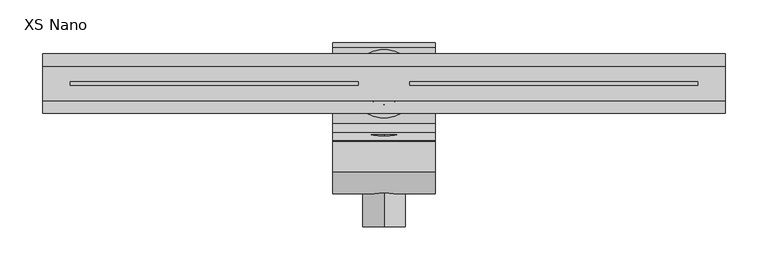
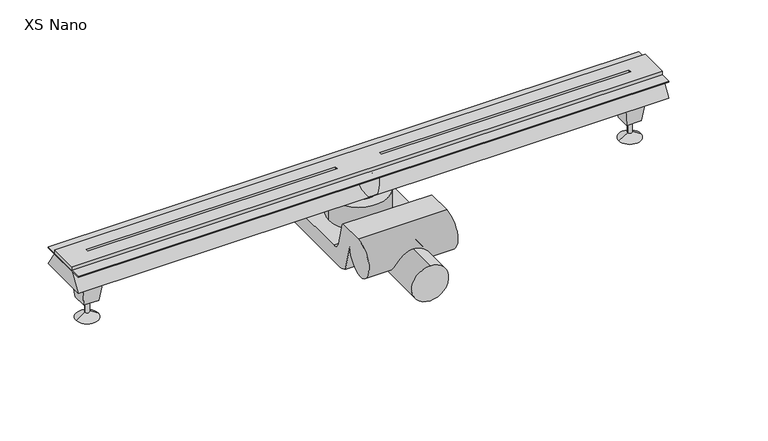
"""IFC4 building model written with IfcOpenShell, lengths in millimetres: sanitary terminal geometry, NLRS_PF_52_UN_XS Nano_Easydrain : XS Nano."""

from ifc_helpers import new_model, si_unit, point, frame, frame_2d, origin, origin_2d, place, context, project, spatial, polyline, circle_curve, trimmed, segment, composite_curve, outline, extrude, faceted_brep, source, transform, mapped, element, save
from ifc_brep_helpers import plane_surface, cylinder_surface, revolved_surface, advanced_brep


def xs_nano_9b7dcf74(model_context):
    return source(origin(), model_context, "Body", "SolidModel", [
        extrude(outline(composite_curve([segment(trimmed(circle_curve(frame_2d((-74.0, 0.0)), 25.0), [point((-99.0, 0.0))], [point((-49.0, 0.0))], False, "CARTESIAN"), True, "CONTINUOUS"), segment(trimmed(circle_curve(frame_2d((-74.0, 0.0)), 25.0), [point((-49.0, 0.0))], [point((-99.0, 0.0))], False, "CARTESIAN"), True, "CONTINUOUS")], self_intersect=False)), frame((0.0, -168.0, 0.0), z_axis=(0.0, 1.0, 0.0), x_axis=(0.0, 0.0, 1.0)), (0.0, 0.0, 1.0), 108.0),
        extrude(outline(composite_curve([segment(trimmed(circle_curve(frame_2d((43.3675767, -90.3675767)), 4.6324233), [point((48.0, -90.3675767))], [point((43.3675767, -95.0))], False, "CARTESIAN"), True, "CONTINUOUS"), segment(polyline([(43.3675767, -95.0), (-60.0, -95.0)]), True, "CONTINUOUS"), segment(trimmed(circle_curve(frame_2d((-57.5994856, -66.0429208)), 29.056409), [point((-60.0, -95.0))], [point((-73.552105, -90.3284894))], False, "CARTESIAN"), True, "CONTINUOUS"), segment(polyline([(-73.552105, -90.3284894), (-84.1621521, -51.5447741)]), True, "CONTINUOUS"), segment(trimmed(circle_curve(frame_2d((-112.4464233, -51.5447741)), 28.2842712), [point((-84.1621521, -51.5447741))], [point((-112.4464233, -79.8290454))], False, "CARTESIAN"), True, "CONTINUOUS"), segment(trimmed(circle_curve(frame_2d((-102.9818456, -55.2956944)), 26.2956944), [point((-112.4464233, -79.8290454))], [point((-102.9818456, -29.0))], False, "CARTESIAN"), True, "CONTINUOUS"), segment(polyline([(-102.9818456, -29.0), (-67.7157548, -29.0)]), True, "CONTINUOUS"), segment(trimmed(circle_curve(frame_2d((-72.2174189, -34.731688)), 7.2881566), [point((-67.7157548, -29.0))], [point((-66.5178956, -30.189369))], False, "CARTESIAN"), True, "CONTINUOUS"), segment(polyline([(-66.5178956, -30.189369), (-57.3528508, -63.0)]), True, "CONTINUOUS"), segment(trimmed(circle_curve(frame_2d((-46.2657703, -60.6709247)), 11.3290753), [point((-57.3528508, -63.0))], [point((-46.2657703, -72.0))], True, "CARTESIAN"), True, "CONTINUOUS"), segment(polyline([(-46.2657703, -72.0), (42.6324233, -72.0)]), True, "CONTINUOUS"), segment(trimmed(circle_curve(frame_2d((42.6324233, -77.3675767)), 5.3675767), [point((42.6324233, -72.0))], [point((48.0, -77.3675767))], False, "CARTESIAN"), True, "CONTINUOUS"), segment(polyline([(48.0, -77.3675767), (48.0, -90.3675767)]), True, "CONTINUOUS")], self_intersect=False)), frame((-60.0, 0.0, 0.0), z_axis=(1.0, 0.0, 0.0), x_axis=(0.0, 1.0, 0.0)), (0.0, 0.0, 1.0), 120.0),
        extrude(outline(composite_curve([segment(trimmed(circle_curve(origin_2d(), 40.0), [point((-40.0, 0.0))], [point((40.0, 0.0))], False, "CARTESIAN"), True, "CONTINUOUS"), segment(trimmed(circle_curve(origin_2d(), 40.0), [point((40.0, 0.0))], [point((-40.0, 0.0))], False, "CARTESIAN"), True, "CONTINUOUS")], self_intersect=False)), frame((0.0, 0.0, -72.0), z_axis=(0.0, 0.0, 1.0), x_axis=(1.0, 0.0, 0.0)), (0.0, 0.0, 1.0), 33.0),
        extrude(outline(composite_curve([segment(trimmed(circle_curve(origin_2d(), 25.0), [point((-25.0, 0.0))], [point((25.0, 0.0))], False, "CARTESIAN"), True, "CONTINUOUS"), segment(trimmed(circle_curve(origin_2d(), 25.0), [point((25.0, 0.0))], [point((-25.0, 0.0))], False, "CARTESIAN"), True, "CONTINUOUS")], self_intersect=False)), frame((0.0, 0.0, -39.0), z_axis=(0.0, 0.0, 1.0), x_axis=(1.0, 0.0, 0.0)), (0.0, 0.0, 1.0), 10.0),
        advanced_brep(
        [(370.5, 0.0, -69.0), (364.5, 0.0, -69.0), (367.5, 0.0, -69.0), (370.5, 0.0, -87.5), (364.5, 0.0, -87.5), (382.5, 0.0, -95.0), (352.5, 0.0, -95.0), (367.5, 0.0, -95.0)],
        [
            (0, 1, circle_curve(frame((367.5, 0.0, -69.0), z_axis=(0.0, 0.0, 1.0), x_axis=(-1.0, 0.0, 0.0)), 3.0)),
            (1, 2),
            (2, 0),
            (1, 0, circle_curve(frame((367.5, 0.0, -69.0), z_axis=(0.0, 0.0, 1.0), x_axis=(-1.0, 0.0, 0.0)), 3.0)),
            (3, 4, circle_curve(frame((367.5, 0.0, -87.5), z_axis=(0.0, 0.0, 1.0), x_axis=(-1.0, 0.0, 0.0)), 3.0)),
            (4, 1),
            (0, 3),
            (4, 3, circle_curve(frame((367.5, 0.0, -87.5), z_axis=(0.0, 0.0, 1.0), x_axis=(-1.0, 0.0, 0.0)), 3.0)),
            (5, 6, circle_curve(frame((367.5, 0.0, -95.0), z_axis=(0.0, 0.0, 1.0), x_axis=(-1.0, 0.0, 0.0)), 15.0)),
            (6, 4),
            (3, 5),
            (6, 5, circle_curve(frame((367.5, 0.0, -95.0), z_axis=(0.0, 0.0, 1.0), x_axis=(-1.0, 0.0, 0.0)), 15.0)),
            (7, 6),
            (5, 7),
        ],
        [
            plane_surface(frame((367.5, 0.0, -69.0), z_axis=(0.0, 0.0, 1.0), x_axis=(-1.0, 0.0, 0.0))),
            cylinder_surface(frame((367.5, 0.0, -103.1782032), z_axis=(0.0, 0.0, -1.0), x_axis=(-1.0, 0.0, 0.0)), 3.0),
            revolved_surface(polyline([(364.5, 0.0, -87.5), (352.5, 0.0, -95.0)]), (367.5, 0.0, -103.1782032), (0.0, 0.0, -1.0)),
            plane_surface(frame((367.5, 0.0, -95.0), z_axis=(0.0, 0.0, -1.0), x_axis=(-1.0, 0.0, 0.0))),
        ],
        [
            (0, [[1, 2, 3]]),
            (0, [[4, -3, -2]]),
            (1, [[5, 6, -1, 7]]),
            (1, [[8, -7, -4, -6]]),
            (2, [[9, 10, -5, 11]]),
            (2, [[12, -11, -8, -10]]),
            (3, [[13, -9, 14]]),
            (3, [[-14, -12, -13]]),
        ],
    ),
        faceted_brep([(357.5, 10.0, -69.0), (377.5, 10.0, -69.0), (377.5, -10.0, -69.0), (357.5, -10.0, -69.0), (352.5, 15.0, -29.0), (352.5, -15.0, -29.0), (382.5, -15.0, -29.0), (382.5, 15.0, -29.0)], [[[0, 1, 2, 3]], [[4, 5, 6, 7]], [[5, 4, 0, 3]], [[6, 5, 3, 2]], [[7, 6, 2, 1]], [[4, 7, 1, 0]]]),
        advanced_brep(
        [(-364.5, 0.0, -69.0), (-370.5, 0.0, -69.0), (-367.5, 0.0, -69.0), (-364.5, 0.0, -87.5), (-370.5, 0.0, -87.5), (-352.5, 0.0, -95.0), (-382.5, 0.0, -95.0), (-367.5, 0.0, -95.0)],
        [
            (0, 1, circle_curve(frame((-367.5, 0.0, -69.0), z_axis=(0.0, 0.0, 1.0), x_axis=(-1.0, 0.0, 0.0)), 3.0)),
            (1, 2),
            (2, 0),
            (1, 0, circle_curve(frame((-367.5, 0.0, -69.0), z_axis=(0.0, 0.0, 1.0), x_axis=(-1.0, 0.0, 0.0)), 3.0)),
            (3, 4, circle_curve(frame((-367.5, 0.0, -87.5), z_axis=(0.0, 0.0, 1.0), x_axis=(-1.0, 0.0, 0.0)), 3.0)),
            (4, 1),
            (0, 3),
            (4, 3, circle_curve(frame((-367.5, 0.0, -87.5), z_axis=(0.0, 0.0, 1.0), x_axis=(-1.0, 0.0, 0.0)), 3.0)),
            (5, 6, circle_curve(frame((-367.5, 0.0, -95.0), z_axis=(0.0, 0.0, 1.0), x_axis=(-1.0, 0.0, 0.0)), 15.0)),
            (6, 4),
            (3, 5),
            (6, 5, circle_curve(frame((-367.5, 0.0, -95.0), z_axis=(0.0, 0.0, 1.0), x_axis=(-1.0, 0.0, 0.0)), 15.0)),
            (7, 6),
            (5, 7),
        ],
        [
            plane_surface(frame((-367.5, 0.0, -69.0), z_axis=(0.0, 0.0, 1.0), x_axis=(-1.0, 0.0, 0.0))),
            cylinder_surface(frame((-367.5, 0.0, -103.1782032), z_axis=(0.0, 0.0, -1.0), x_axis=(-1.0, 0.0, 0.0)), 3.0),
            revolved_surface(polyline([(-370.5, 0.0, -87.5), (-382.5, 0.0, -95.0)]), (-367.5, 0.0, -103.1782032), (0.0, 0.0, -1.0)),
            plane_surface(frame((-367.5, 0.0, -95.0), z_axis=(0.0, 0.0, -1.0), x_axis=(-1.0, 0.0, 0.0))),
        ],
        [
            (0, [[1, 2, 3]]),
            (0, [[4, -3, -2]]),
            (1, [[5, 6, -1, 7]]),
            (1, [[8, -7, -4, -6]]),
            (2, [[9, 10, -5, 11]]),
            (2, [[12, -11, -8, -10]]),
            (3, [[13, -9, 14]]),
            (3, [[-14, -12, -13]]),
        ],
    ),
        faceted_brep([(-377.5, 10.0, -69.0), (-357.5, 10.0, -69.0), (-357.5, -10.0, -69.0), (-377.5, -10.0, -69.0), (-382.5, 15.0, -29.0), (-382.5, -15.0, -29.0), (-352.5, -15.0, -29.0), (-352.5, 15.0, -29.0)], [[[0, 1, 2, 3]], [[4, 5, 6, 7]], [[5, 4, 0, 3]], [[6, 5, 3, 2]], [[7, 6, 2, 1]], [[4, 7, 1, 0]]]),
        extrude(outline(polyline([(400.0, 20.0), (400.0, -20.0), (-400.0, -20.0), (-400.0, 20.0), (400.0, 20.0)]), holes=[polyline([(-30.0, 2.0), (-367.5, 2.0), (-367.5, -2.0), (-30.0, -2.0), (-30.0, 2.0)]), polyline([(30.0, 2.0), (30.0, -2.0), (367.5, -2.0), (367.5, 2.0), (30.0, 2.0)])]), frame((0.0, 0.0, -5.0), z_axis=(0.0, 0.0, 1.0), x_axis=(1.0, 0.0, 0.0)), (0.0, 0.0, 1.0), 5.0),
        extrude(outline(polyline([(400.0, 35.0), (400.0, -35.0), (-400.0, -35.0), (-400.0, 35.0), (400.0, 35.0)])), frame((0.0, 0.0, -6.4659054), z_axis=(0.0, 0.0, 1.0), x_axis=(1.0, 0.0, 0.0)), (0.0, 0.0, 1.0), 1.4659054),
        advanced_brep(
        [(-35.0, 0.0, -29.0), (35.0, 0.0, -29.0), (-25.0, 0.0, -5.0), (25.0, 0.0, -5.0)],
        [
            (0, 1, circle_curve(frame((0.0, 0.0, -29.0), z_axis=(0.0, 0.0, -1.0), x_axis=(-1.0, 0.0, 0.0)), 35.0)),
            (1, 0, circle_curve(frame((0.0, 0.0, -29.0), z_axis=(0.0, 0.0, -1.0), x_axis=(1.0, 0.0, 0.0)), 35.0)),
            (2, 3, circle_curve(frame((0.0, 0.0, -5.0), z_axis=(0.0, 0.0, 1.0), x_axis=(1.0, 0.0, 0.0)), 25.0)),
            (3, 2, circle_curve(frame((0.0, 0.0, -5.0), z_axis=(0.0, 0.0, 1.0), x_axis=(-1.0, 0.0, 0.0)), 25.0)),
            (2, 0),
            (1, 3),
        ],
        [
            plane_surface(frame((0.0, 0.0, -29.0), z_axis=(0.0, 0.0, -1.0), x_axis=(0.0, -1.0, 0.0))),
            plane_surface(frame((0.0, 0.0, -5.0), z_axis=(0.0, 0.0, 1.0), x_axis=(0.0, -1.0, 0.0))),
            revolved_surface(polyline([(-25.0, 0.0, -5.0), (-35.0, 0.0, -29.0)]), (0.0, 0.0, 55.0), (0.0, 0.0, -1.0)),
            revolved_surface(polyline([(25.0, 0.0, -5.0), (35.0, 0.0, -29.0)]), (0.0, 0.0, 55.0), (0.0, 0.0, -1.0)),
        ],
        [
            (0, [[1, 2]]),
            (1, [[3, 4]]),
            (2, [[-3, 5, -2, 6]]),
            (3, [[-4, -6, -1, -5]]),
        ],
    ),
        extrude(outline(polyline([(-20.0, -5.0), (20.0, -5.0), (35.0, -29.0), (-35.0, -29.0), (-20.0, -5.0)])), frame((-400.0, 0.0, 0.0), z_axis=(1.0, 0.0, 0.0), x_axis=(0.0, 1.0, 0.0)), (0.0, 0.0, 1.0), 800.0),
    ])


if __name__ == "__main__":
    model = new_model("IFC4")
    model_context = context("Model", 3, world=origin())
    ifc_project = project(units=[si_unit("LENGTHUNIT", "METRE", prefix="MILLI")], contexts=[model_context])
    site = spatial("IfcSite", under=ifc_project)
    building = spatial("IfcBuilding", under=site)
    placement = place(None, origin())
    xs_nano_shape = xs_nano_9b7dcf74(model_context)
    element("IfcSanitaryTerminal", 1, ObjectType="NLRS_PF_52_UN_XS Nano_Easydrain : XS Nano", at=placement, inside=building, context=model_context, shape_type="MappedRepresentation", body=[
        mapped(xs_nano_shape, transform((0.0, 0.0, 0.0), x_axis=(1.0, 0.0, 0.0), y_axis=(0.0, 1.0, 0.0), z_axis=(0.0, 0.0, 1.0))),
    ])
    save(model, "model.ifc")
